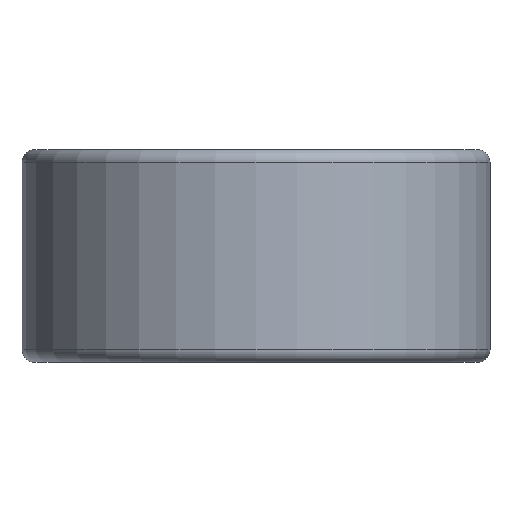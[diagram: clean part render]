
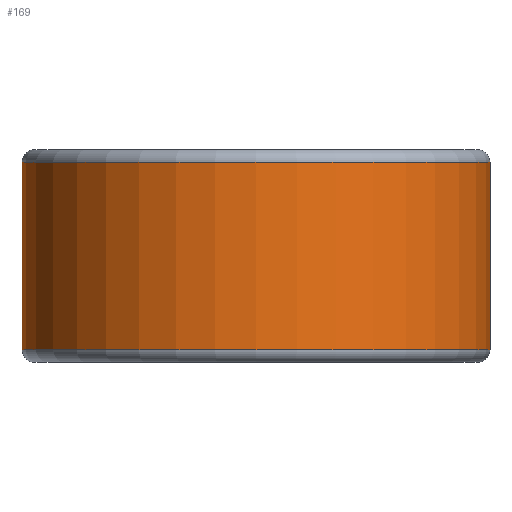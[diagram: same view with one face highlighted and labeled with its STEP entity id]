
A CAD part, front view. The second image highlights one B-rep face of the part: STEP entity #169.
In plain terms, the highlighted cylindrical face has radius 5.5 mm (diameter 11 mm), a partial arc.
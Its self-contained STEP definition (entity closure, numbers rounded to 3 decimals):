
#1 = DIRECTION ( 'NONE',  ( 0., 0., -1. ) ) ;
#7 = ORIENTED_EDGE ( 'NONE', *, *, #293, .T. ) ;
#19 = ORIENTED_EDGE ( 'NONE', *, *, #460, .T. ) ;
#25 = DIRECTION ( 'NONE',  ( -1., 0., 0. ) ) ;
#35 = CARTESIAN_POINT ( 'NONE',  ( 0., 0., 4.7 ) ) ;
#56 = EDGE_CURVE ( 'NONE', #317, #99, #109, .T. ) ;
#86 = VECTOR ( 'NONE', #129, 1000. ) ;
#89 = CARTESIAN_POINT ( 'NONE',  ( 0., 0., 0.3 ) ) ;
#91 = CIRCLE ( 'NONE', #142, 5.5 ) ;
#99 = VERTEX_POINT ( 'NONE', #385 ) ;
#101 = ORIENTED_EDGE ( 'NONE', *, *, #102, .F. ) ;
#102 = EDGE_CURVE ( 'NONE', #387, #99, #309, .T. ) ;
#109 = CIRCLE ( 'NONE', #413, 5.5 ) ;
#126 = VECTOR ( 'NONE', #430, 1000. ) ;
#129 = DIRECTION ( 'NONE',  ( 0., 0., -1. ) ) ;
#142 = AXIS2_PLACEMENT_3D ( 'NONE', #35, #1, #369 ) ;
#157 = AXIS2_PLACEMENT_3D ( 'NONE', #210, #373, #25 ) ;
#169 = ADVANCED_FACE ( 'NONE', ( #404 ), #222, .T. ) ;
#198 = CARTESIAN_POINT ( 'NONE',  ( -5.5, 0., 0.3 ) ) ;
#199 = VERTEX_POINT ( 'NONE', #208 ) ;
#208 = CARTESIAN_POINT ( 'NONE',  ( -5.5, 0., 4.7 ) ) ;
#210 = CARTESIAN_POINT ( 'NONE',  ( 0., 0., 5. ) ) ;
#212 = ORIENTED_EDGE ( 'NONE', *, *, #56, .T. ) ;
#222 = CYLINDRICAL_SURFACE ( 'NONE', #157, 5.5 ) ;
#264 = LINE ( 'NONE', #276, #126 ) ;
#276 = CARTESIAN_POINT ( 'NONE',  ( -5.5, 0., 5. ) ) ;
#293 = EDGE_CURVE ( 'NONE', #199, #317, #264, .T. ) ;
#309 = LINE ( 'NONE', #463, #86 ) ;
#317 = VERTEX_POINT ( 'NONE', #198 ) ;
#349 = EDGE_LOOP ( 'NONE', ( #101, #19, #7, #212 ) ) ;
#369 = DIRECTION ( 'NONE',  ( 1., 0., 0. ) ) ;
#373 = DIRECTION ( 'NONE',  ( 0., 0., -1. ) ) ;
#385 = CARTESIAN_POINT ( 'NONE',  ( 5.5, 0., 0.3 ) ) ;
#387 = VERTEX_POINT ( 'NONE', #414 ) ;
#395 = DIRECTION ( 'NONE',  ( 1., 0., 0. ) ) ;
#404 = FACE_OUTER_BOUND ( 'NONE', #349, .T. ) ;
#413 = AXIS2_PLACEMENT_3D ( 'NONE', #89, #465, #395 ) ;
#414 = CARTESIAN_POINT ( 'NONE',  ( 5.5, 0., 4.7 ) ) ;
#430 = DIRECTION ( 'NONE',  ( 0., 0., -1. ) ) ;
#460 = EDGE_CURVE ( 'NONE', #387, #199, #91, .T. ) ;
#463 = CARTESIAN_POINT ( 'NONE',  ( 5.5, 0., 5. ) ) ;
#465 = DIRECTION ( 'NONE',  ( 0., 0., 1. ) ) ;
